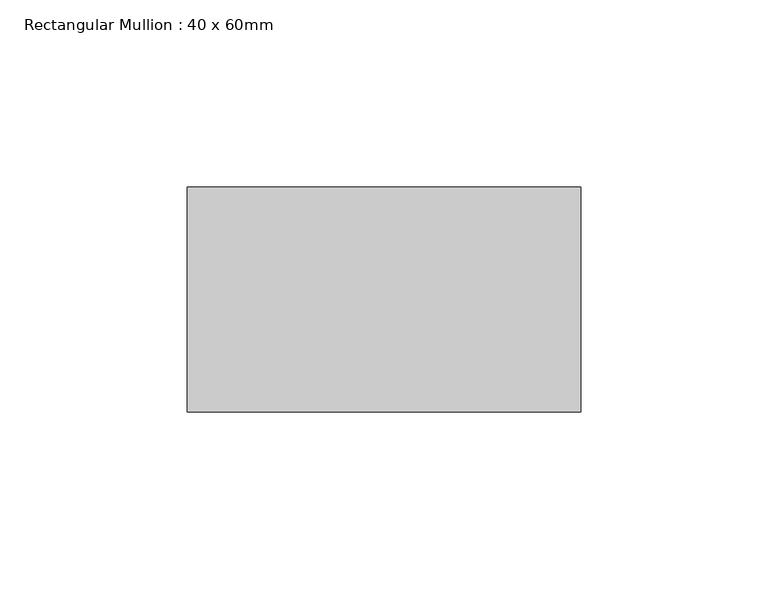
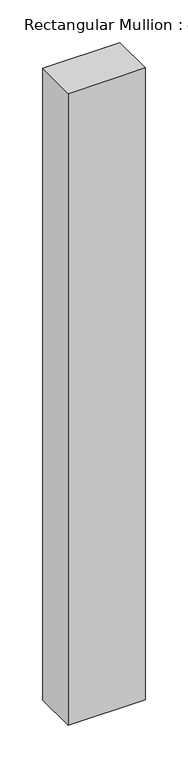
"""IFC4 building model written with IfcOpenShell, lengths in millimetres: member geometry, Rectangular Mullion : 40 x 60mm."""

from ifc_helpers import new_model, si_unit, frame, origin, place, context, project, spatial, polyline, outline, extrude, source, transform, mapped, element, save


def rectangular_mullion_40_x_60mm_b5bf3ab6(model_context):
    return source(origin(), model_context, "Body", "SweptSolid", [
        extrude(outline(polyline([(80.0, -10.0), (80.0, -70.0), (-25.0, -70.0), (-25.0, -10.0), (80.0, -10.0)])), frame((0.0, 0.0, -906.5987662), z_axis=(0.0, 0.0, 1.0), x_axis=(1.0, 0.0, 0.0)), (0.0, 0.0, 1.0), 906.5987662),
    ])


if __name__ == "__main__":
    model = new_model("IFC4")
    model_context = context("Model", 3, world=origin())
    ifc_project = project(units=[si_unit("LENGTHUNIT", "METRE", prefix="MILLI")], contexts=[model_context])
    site = spatial("IfcSite", under=ifc_project)
    building = spatial("IfcBuilding", under=site)
    placement = place(None, origin())
    rectangular_mullion_40_x_60mm_shape = rectangular_mullion_40_x_60mm_b5bf3ab6(model_context)
    element("IfcMember", 1, ObjectType="Rectangular Mullion : 40 x 60mm", at=placement, inside=building, context=model_context, shape_type="MappedRepresentation", body=[
        mapped(rectangular_mullion_40_x_60mm_shape, transform((0.0, 0.0, 0.0), x_axis=(1.0, 0.0, 0.0), y_axis=(0.0, 1.0, 0.0), z_axis=(0.0, 0.0, 1.0))),
    ])
    save(model, "model.ifc")
